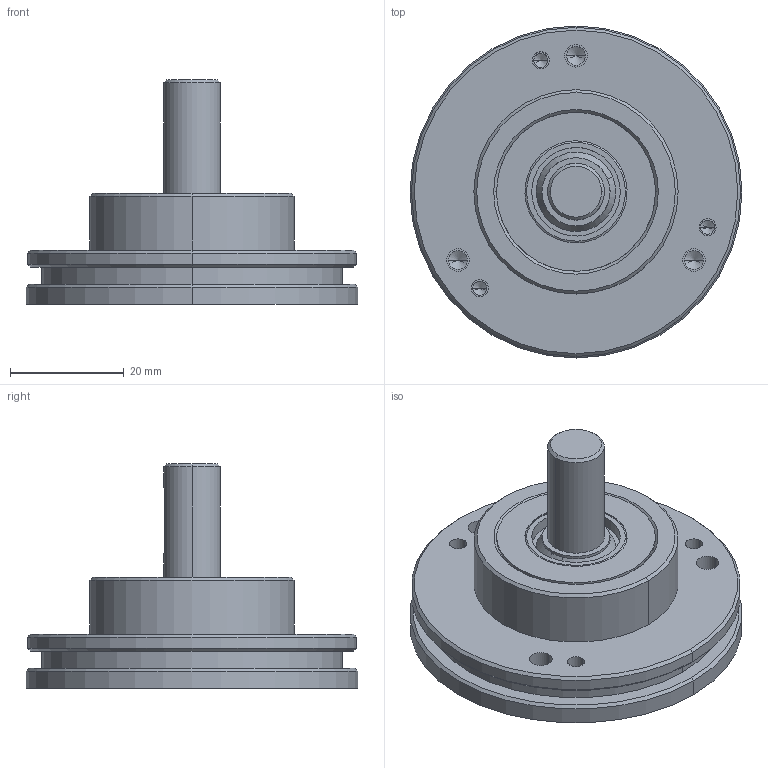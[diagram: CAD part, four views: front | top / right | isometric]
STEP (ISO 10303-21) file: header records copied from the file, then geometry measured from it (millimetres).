
FILE_DESCRIPTION (( 'STEP AP203' ), '1' );
FILE_NAME ('Drawing-UCD-LA3S-Q5B-N_1.STEP', '2016-09-05T09:31:57', ( '' ), ( '' ), 'SwSTEP 2.0', 'SolidWorks 2015', '' );
FILE_SCHEMA (( 'CONFIG_CONTROL_DESIGN' ));
Length unit declared in the file: millimetre
Products named in the file (1): Drawing-UCD-LA3S-Q5B-N_1
Bounding box: 58.5 x 58.5 x 39.5 mm (x, y, z)
Volume: 29916.3 mm3; surface area: 19153.7 mm2
Topology: 19 solids, 19 shells, 455 faces, 1084 edges, 664 vertices
Faces by surface type: plane 147, bspline 139, cylinder 99, cone 70
Entity records: 18791 total; most frequent: CARTESIAN_POINT 9040, ORIENTED_EDGE 2064, DIRECTION 1794, EDGE_CURVE 1032, VERTEX_POINT 664, AXIS2_PLACEMENT_3D 640, EDGE_LOOP 524, VECTOR 514
